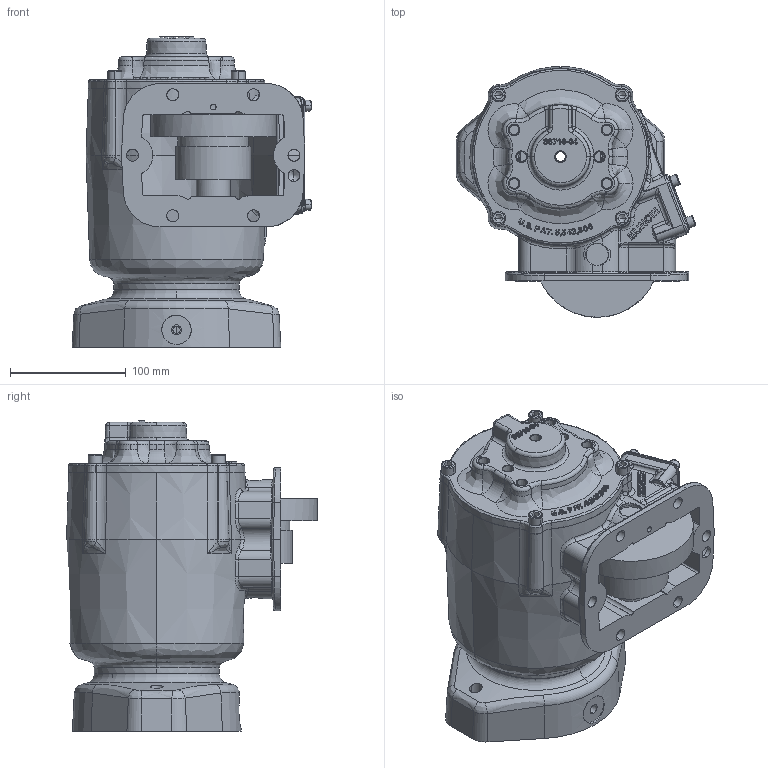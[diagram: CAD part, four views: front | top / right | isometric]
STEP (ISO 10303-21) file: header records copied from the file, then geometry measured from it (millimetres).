
FILE_DESCRIPTION (( 'STEP AP203' ), '1' );
FILE_NAME ('CS6S-A67XX-H1LX.STEP', '2023-04-26T15:21:20', ( '' ), ( '' ), 'SwSTEP 2.0', 'SolidWorks 2021', '' );
FILE_SCHEMA (( 'CONFIG_CONTROL_DESIGN' ));
Length unit declared in the file: inch
Products named in the file (7): CS6S-A67XX-H1LX; 15TA5220_Config1; CS6S-XXXXX-X1XX; 11T37790; 15T41683; 14T40714; 10T21017
Assembly tree (6 placements, depth 3):
  CS6S-A67XX-H1LX
    CS6S-XXXXX-X1XX
    15TA5220_Config1
      15T41683
      11T37790
    10T21017
    14T40714
Bounding box: 207.38 x 216.75 x 268.87 mm (x, y, z)
Volume: 2016697.8 mm3; surface area: 456663.7 mm2
Topology: 14 solids, 14 shells, 2247 faces, 5814 edges, 3614 vertices
Faces by surface type: bspline 854, cylinder 468, plane 448, cone 233, torus 224, sphere 20
Entity records: 155933 total; most frequent: CARTESIAN_POINT 108518, ORIENTED_EDGE 11412, DIRECTION 6697, EDGE_CURVE 5706, VERTEX_POINT 3587, B_SPLINE_CURVE_WITH_KNOTS 2839, EDGE_LOOP 2455, AXIS2_PLACEMENT_3D 2440
